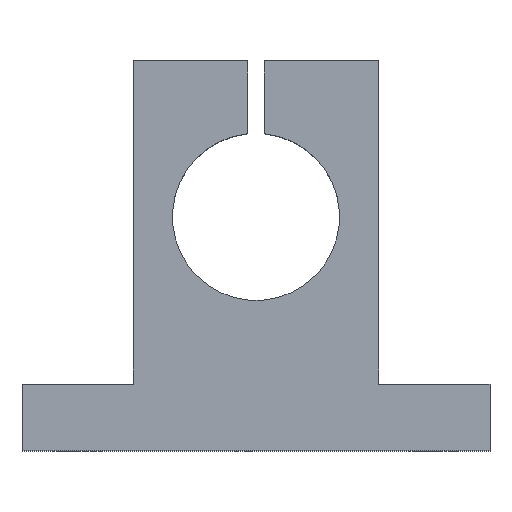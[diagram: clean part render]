
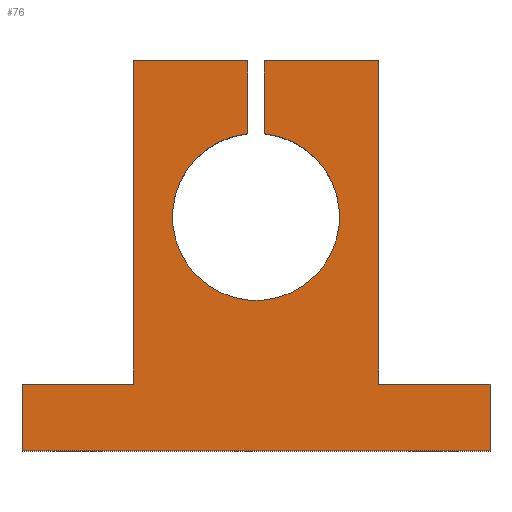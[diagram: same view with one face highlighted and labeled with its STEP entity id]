
A CAD part, top view. The second image highlights one B-rep face of the part: STEP entity #76.
In plain terms, the highlighted planar face has unit normal (0, 0, 1).
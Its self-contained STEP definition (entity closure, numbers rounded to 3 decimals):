
#76 = ADVANCED_FACE( '', ( #94 ), #95, .T. );
#94 = FACE_OUTER_BOUND( '', #132, .T. );
#95 = PLANE( '', #133 );
#132 = EDGE_LOOP( '', ( #175, #176, #177, #178, #179, #180, #181, #182, #183, #184, #185, #186 ) );
#133 = AXIS2_PLACEMENT_3D( '', #187, #188, #189 );
#175 = ORIENTED_EDGE( '', *, *, #300, .T. );
#176 = ORIENTED_EDGE( '', *, *, #301, .T. );
#177 = ORIENTED_EDGE( '', *, *, #302, .T. );
#178 = ORIENTED_EDGE( '', *, *, #303, .T. );
#179 = ORIENTED_EDGE( '', *, *, #304, .T. );
#180 = ORIENTED_EDGE( '', *, *, #305, .T. );
#181 = ORIENTED_EDGE( '', *, *, #306, .T. );
#182 = ORIENTED_EDGE( '', *, *, #307, .T. );
#183 = ORIENTED_EDGE( '', *, *, #308, .F. );
#184 = ORIENTED_EDGE( '', *, *, #309, .T. );
#185 = ORIENTED_EDGE( '', *, *, #310, .T. );
#186 = ORIENTED_EDGE( '', *, *, #298, .T. );
#187 = CARTESIAN_POINT( '', ( 0., 42., 14. ) );
#188 = DIRECTION( '', ( 0., 0., 1. ) );
#189 = DIRECTION( '', ( 1., 0., 0. ) );
#298 = EDGE_CURVE( '', #341, #339, #342, .T. );
#300 = EDGE_CURVE( '', #339, #344, #345, .T. );
#301 = EDGE_CURVE( '', #344, #346, #347, .T. );
#302 = EDGE_CURVE( '', #346, #348, #349, .T. );
#303 = EDGE_CURVE( '', #348, #350, #351, .T. );
#304 = EDGE_CURVE( '', #350, #352, #353, .T. );
#305 = EDGE_CURVE( '', #352, #354, #355, .T. );
#306 = EDGE_CURVE( '', #354, #356, #357, .T. );
#307 = EDGE_CURVE( '', #356, #358, #359, .T. );
#308 = EDGE_CURVE( '', #360, #358, #361, .T. );
#309 = EDGE_CURVE( '', #360, #362, #363, .T. );
#310 = EDGE_CURVE( '', #362, #341, #364, .T. );
#339 = VERTEX_POINT( '', #408 );
#341 = VERTEX_POINT( '', #411 );
#342 = LINE( '', #412, #413 );
#344 = VERTEX_POINT( '', #416 );
#345 = LINE( '', #417, #418 );
#346 = VERTEX_POINT( '', #419 );
#347 = LINE( '', #420, #421 );
#348 = VERTEX_POINT( '', #422 );
#349 = LINE( '', #423, #424 );
#350 = VERTEX_POINT( '', #425 );
#351 = LINE( '', #426, #427 );
#352 = VERTEX_POINT( '', #428 );
#353 = LINE( '', #429, #430 );
#354 = VERTEX_POINT( '', #431 );
#355 = LINE( '', #432, #433 );
#356 = VERTEX_POINT( '', #434 );
#357 = LINE( '', #435, #436 );
#358 = VERTEX_POINT( '', #437 );
#359 = LINE( '', #438, #439 );
#360 = VERTEX_POINT( '', #440 );
#361 = CIRCLE( '', #441, 15. );
#362 = VERTEX_POINT( '', #442 );
#363 = LINE( '', #443, #444 );
#364 = LINE( '', #445, #446 );
#408 = CARTESIAN_POINT( '', ( -22., 12., 14. ) );
#411 = CARTESIAN_POINT( '', ( -22., 70., 14. ) );
#412 = CARTESIAN_POINT( '', ( -22., 70., 14. ) );
#413 = VECTOR( '', #508, 1000. );
#416 = CARTESIAN_POINT( '', ( -42., 12., 14. ) );
#417 = CARTESIAN_POINT( '', ( -22., 12., 14. ) );
#418 = VECTOR( '', #510, 1000. );
#419 = CARTESIAN_POINT( '', ( -42., 0., 14. ) );
#420 = CARTESIAN_POINT( '', ( -42., 12., 14. ) );
#421 = VECTOR( '', #511, 1000. );
#422 = CARTESIAN_POINT( '', ( 42., 0., 14. ) );
#423 = CARTESIAN_POINT( '', ( -42., 0., 14. ) );
#424 = VECTOR( '', #512, 1000. );
#425 = CARTESIAN_POINT( '', ( 42., 12., 14. ) );
#426 = CARTESIAN_POINT( '', ( 42., 0., 14. ) );
#427 = VECTOR( '', #513, 1000. );
#428 = CARTESIAN_POINT( '', ( 22., 12., 14. ) );
#429 = CARTESIAN_POINT( '', ( 42., 12., 14. ) );
#430 = VECTOR( '', #514, 1000. );
#431 = CARTESIAN_POINT( '', ( 22., 70., 14. ) );
#432 = CARTESIAN_POINT( '', ( 22., 12., 14. ) );
#433 = VECTOR( '', #515, 1000. );
#434 = CARTESIAN_POINT( '', ( 1.5, 70., 14. ) );
#435 = CARTESIAN_POINT( '', ( 22., 70., 14. ) );
#436 = VECTOR( '', #516, 1000. );
#437 = CARTESIAN_POINT( '', ( 1.5, 56.925, 14. ) );
#438 = CARTESIAN_POINT( '', ( 1.5, 70., 14. ) );
#439 = VECTOR( '', #517, 1000. );
#440 = CARTESIAN_POINT( '', ( -1.5, 56.925, 14. ) );
#441 = AXIS2_PLACEMENT_3D( '', #518, #519, #520 );
#442 = CARTESIAN_POINT( '', ( -1.5, 70., 14. ) );
#443 = CARTESIAN_POINT( '', ( -1.5, 56.925, 14. ) );
#444 = VECTOR( '', #521, 1000. );
#445 = CARTESIAN_POINT( '', ( -1.5, 70., 14. ) );
#446 = VECTOR( '', #522, 1000. );
#508 = DIRECTION( '', ( 0., -1., 0. ) );
#510 = DIRECTION( '', ( -1., 0., 0. ) );
#511 = DIRECTION( '', ( 0., -1., 0. ) );
#512 = DIRECTION( '', ( 1., 0., 0. ) );
#513 = DIRECTION( '', ( 0., 1., 0. ) );
#514 = DIRECTION( '', ( -1., 0., 0. ) );
#515 = DIRECTION( '', ( 0., 1., 0. ) );
#516 = DIRECTION( '', ( -1., 0., 0. ) );
#517 = DIRECTION( '', ( 0., -1., 0. ) );
#518 = CARTESIAN_POINT( '', ( 0., 42., 14. ) );
#519 = DIRECTION( '', ( 0., 0., 1. ) );
#520 = DIRECTION( '', ( 1., 0., 0. ) );
#521 = DIRECTION( '', ( 0., 1., 0. ) );
#522 = DIRECTION( '', ( -1., 0., 0. ) );
